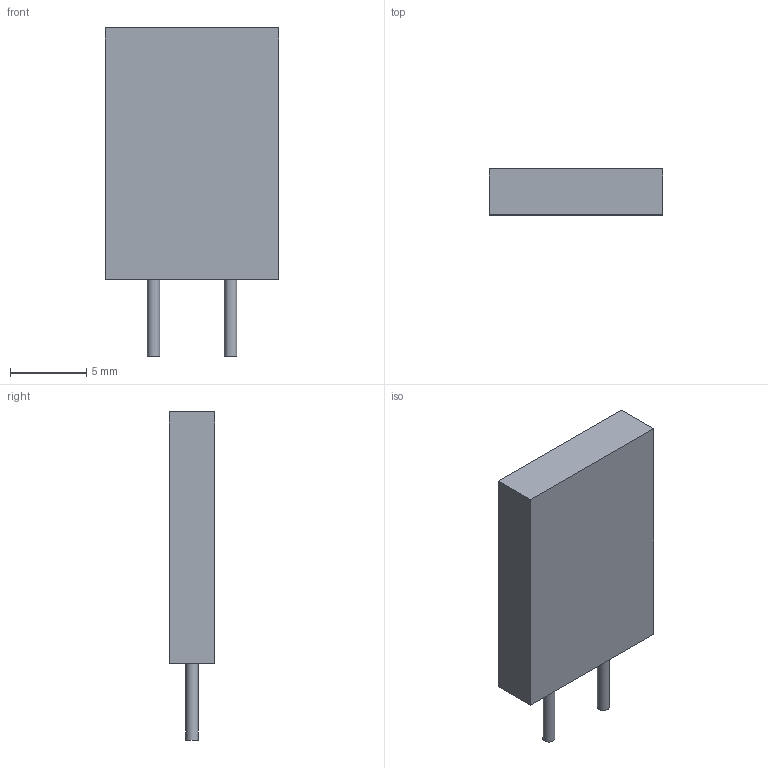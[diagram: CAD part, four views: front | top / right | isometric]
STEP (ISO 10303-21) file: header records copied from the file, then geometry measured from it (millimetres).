
FILE_DESCRIPTION(('FreeCAD Model'),'2;1');
FILE_NAME('/var/www/3D/0T/992102.1.1.stp','2018-11-21T22:35:52',( 'Author'),(''),'Open CASCADE STEP processor 6.8','FreeCAD','Unknown' );
FILE_SCHEMA(('AUTOMOTIVE_DESIGN_CC2 { 1 2 10303 214 -1 1 5 4 }'));
Length unit declared in the file: millimetre
Products named in the file (3): ASSEMBLY; Body; Leads
Assembly tree (3 placements, depth 2):
  ASSEMBLY
    Body
    Leads  x2
Bounding box: 11.4 x 3 x 21.5 mm (x, y, z)
Volume: 574.6 mm3; surface area: 598.6 mm2
Topology: 5 solids, 5 shells, 18 faces, 24 edges, 16 vertices
Faces by surface type: plane 14, cylinder 4
Full cylindrical faces by diameter (mm): 0.81 x4
Entity records: 581 total; most frequent: DIRECTION 90, CARTESIAN_POINT 82, LINE 46, VECTOR 46, ORIENTED_EDGE 36, PCURVE 36, DEFINITIONAL_REPRESENTATION 36, AXIS2_PLACEMENT_3D 20
